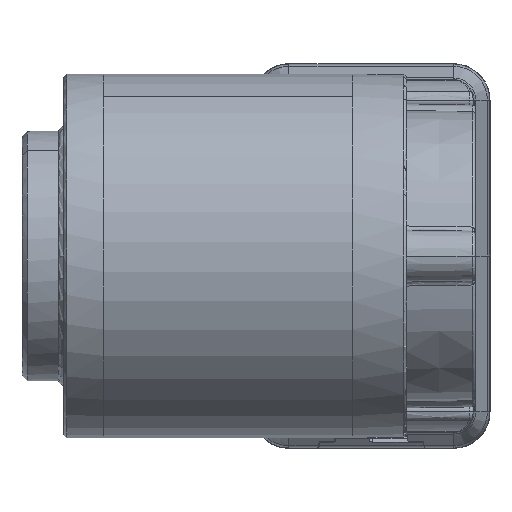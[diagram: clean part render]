
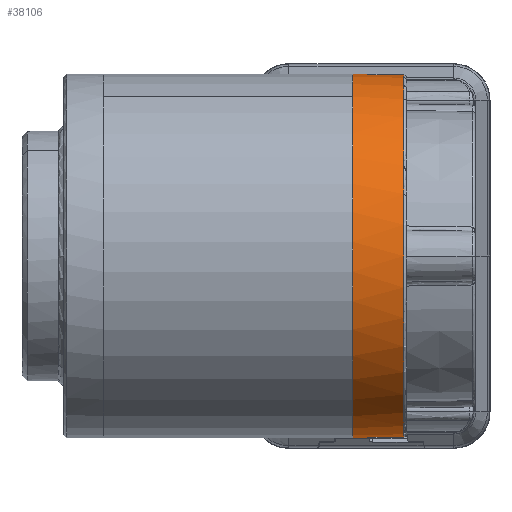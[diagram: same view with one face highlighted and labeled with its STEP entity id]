
A CAD part, front view. The second image highlights one B-rep face of the part: STEP entity #38106.
In plain terms, the highlighted conical face has half-angle 1 degrees and reference radius 17.409 mm.
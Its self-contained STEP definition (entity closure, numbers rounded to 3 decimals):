
#2341 = VERTEX_POINT ( 'NONE', #62283 ) ;
#4176 = EDGE_CURVE ( 'NONE', #32567, #29887, #10125, .T. ) ;
#6229 = CARTESIAN_POINT ( 'NONE',  ( -2499110.051, 0., -43639.721 ) ) ;
#6692 = ORIENTED_EDGE ( 'NONE', *, *, #11318, .F. ) ;
#8562 = ORIENTED_EDGE ( 'NONE', *, *, #28776, .F. ) ;
#8716 = VECTOR ( 'NONE', #11071, 1000. ) ;
#9454 = DIRECTION ( 'NONE',  ( -1., 0., 0. ) ) ;
#10125 = CIRCLE ( 'NONE', #15250, 17.414 ) ;
#10496 = DIRECTION ( 'NONE',  ( -1., 0., 0. ) ) ;
#10651 = CIRCLE ( 'NONE', #46856, 17.5 ) ;
#11071 = DIRECTION ( 'NONE',  ( -1., 0., -0.017 ) ) ;
#11318 = EDGE_CURVE ( 'NONE', #32567, #2341, #21791, .T. ) ;
#14187 = DIRECTION ( 'NONE',  ( 0., 0., -1. ) ) ;
#15250 = AXIS2_PLACEMENT_3D ( 'NONE', #35946, #40276, #45754 ) ;
#15667 = ORIENTED_EDGE ( 'NONE', *, *, #4176, .T. ) ;
#16467 = FACE_OUTER_BOUND ( 'NONE', #16999, .T. ) ;
#16999 = EDGE_LOOP ( 'NONE', ( #6692, #15667, #38992, #8562, #26876 ) ) ;
#18835 = DIRECTION ( 'NONE',  ( -1., 0., 0.017 ) ) ;
#21791 = LINE ( 'NONE', #6229, #8716 ) ;
#23272 = EDGE_CURVE ( 'NONE', #29887, #63311, #57584, .T. ) ;
#23408 = CARTESIAN_POINT ( 'NONE',  ( 10.205, 0., 17.414 ) ) ;
#26876 = ORIENTED_EDGE ( 'NONE', *, *, #52636, .F. ) ;
#27926 = CARTESIAN_POINT ( 'NONE',  ( 5.3, 0., 0. ) ) ;
#28776 = EDGE_CURVE ( 'NONE', #43415, #63311, #38589, .T. ) ;
#29810 = CARTESIAN_POINT ( 'NONE',  ( 5.3, 0., 0. ) ) ;
#29887 = VERTEX_POINT ( 'NONE', #23408 ) ;
#31154 = CONICAL_SURFACE ( 'NONE', #42961, 17.409, 0.017 ) ;
#31617 = CARTESIAN_POINT ( 'NONE',  ( 10.203, 0., -17.414 ) ) ;
#32567 = VERTEX_POINT ( 'NONE', #31617 ) ;
#32858 = DIRECTION ( 'NONE',  ( -1., 0., 0. ) ) ;
#33269 = CARTESIAN_POINT ( 'NONE',  ( 10.5, 0., 0. ) ) ;
#34701 = DIRECTION ( 'NONE',  ( 0., 1., 0. ) ) ;
#35946 = CARTESIAN_POINT ( 'NONE',  ( 10.205, 0., 0. ) ) ;
#37672 = VECTOR ( 'NONE', #18835, 1000. ) ;
#38106 = ADVANCED_FACE ( 'NONE', ( #16467 ), #31154, .T. ) ;
#38426 = DIRECTION ( 'NONE',  ( 0., 1., 0. ) ) ;
#38589 = CIRCLE ( 'NONE', #60676, 17.5 ) ;
#38992 = ORIENTED_EDGE ( 'NONE', *, *, #23272, .T. ) ;
#40276 = DIRECTION ( 'NONE',  ( -1., 0., 0. ) ) ;
#41165 = CARTESIAN_POINT ( 'NONE',  ( 5.3, -8.435, 15.333 ) ) ;
#42961 = AXIS2_PLACEMENT_3D ( 'NONE', #33269, #9454, #14187 ) ;
#43212 = CARTESIAN_POINT ( 'NONE',  ( -2499110.051, 0., 43639.721 ) ) ;
#43415 = VERTEX_POINT ( 'NONE', #41165 ) ;
#45754 = DIRECTION ( 'NONE',  ( 0., -1., 0. ) ) ;
#46856 = AXIS2_PLACEMENT_3D ( 'NONE', #29810, #10496, #34701 ) ;
#52636 = EDGE_CURVE ( 'NONE', #2341, #43415, #10651, .T. ) ;
#57584 = LINE ( 'NONE', #43212, #37672 ) ;
#57977 = CARTESIAN_POINT ( 'NONE',  ( 5.3, 0., 17.5 ) ) ;
#60676 = AXIS2_PLACEMENT_3D ( 'NONE', #27926, #32858, #38426 ) ;
#62283 = CARTESIAN_POINT ( 'NONE',  ( 5.3, 0., -17.5 ) ) ;
#63311 = VERTEX_POINT ( 'NONE', #57977 ) ;
